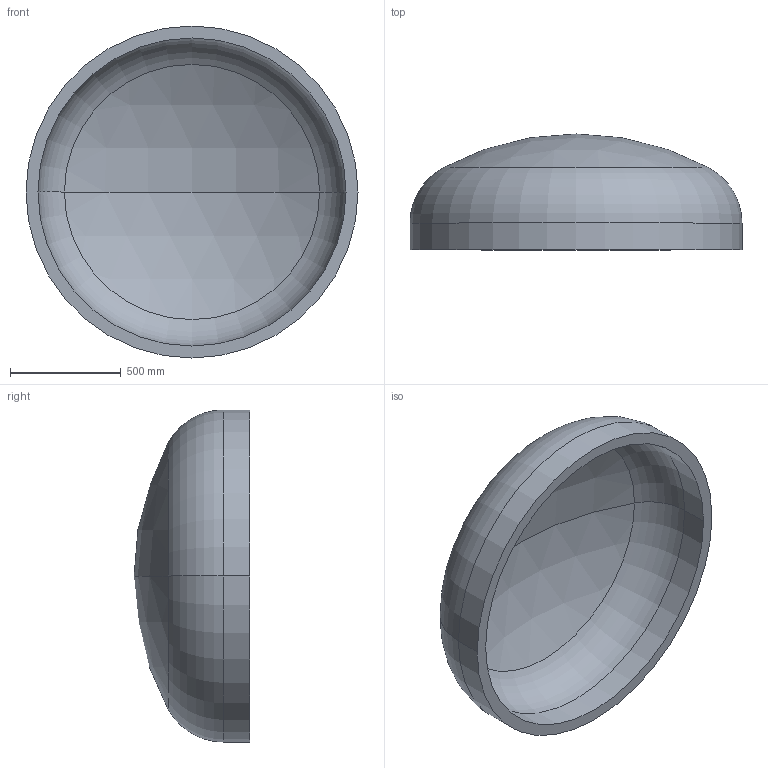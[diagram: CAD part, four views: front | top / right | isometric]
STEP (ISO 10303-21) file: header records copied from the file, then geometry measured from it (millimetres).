
FILE_DESCRIPTION (( 'STEP AP203' ), '1' );
FILE_NAME ('DIN 28013 Korbbogenform_-_Boden DIN 28013 - 1500 x 120 - I - s=54.step', '2016-07-01T10:49:44', ( '' ), ( '' ), 'SwSTEP 2.0', 'SolidWorks 2013', '' );
FILE_SCHEMA (( 'CONFIG_CONTROL_DESIGN' ));
Length unit declared in the file: millimetre
Products named in the file (1): DIN 28013 Korbbogenform_-_Boden DIN 28013 - 1500 x 120 - I - s=54
Bounding box: 1500 x 523.27 x 1500 mm (x, y, z)
Volume: 155447436.1 mm3; surface area: 6008726.2 mm2
Topology: 1 solids, 1 shells, 13 faces, 24 edges, 14 vertices
Faces by surface type: torus 4, cylinder 4, sphere 4, plane 1
Entity records: 407 total; most frequent: DIRECTION 72, CARTESIAN_POINT 52, ORIENTED_EDGE 48, AXIS2_PLACEMENT_3D 34, EDGE_CURVE 24, CIRCLE 20, VERTEX_POINT 14, EDGE_LOOP 14
